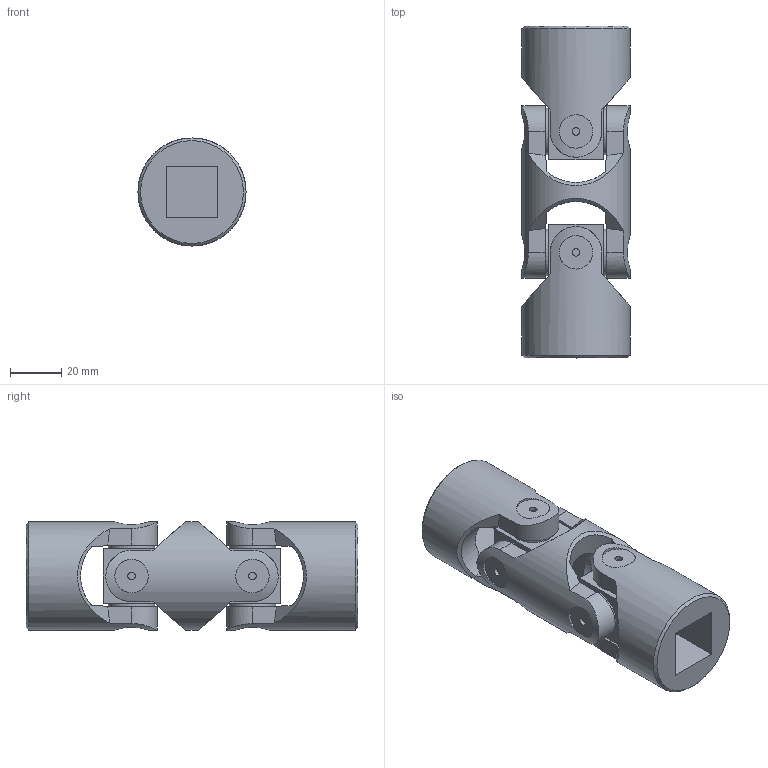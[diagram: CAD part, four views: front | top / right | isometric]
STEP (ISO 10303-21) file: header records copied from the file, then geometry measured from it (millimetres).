
FILE_DESCRIPTION(/* description */ (''),/* implementation_level */ '2;1');
FILE_NAME(/* name */ '\\SRV2016\Societa\Stefano\Disegni 3D\00Catalogo 3D\02Doppi GD-GBD\SG0D202Q.stp',/* time_stamp */ '2021-11-23T12:25:57+01:00',/* author */ ('acquisti'),/* organization */ (''),/* preprocessor_version */ 'ST-DEVELOPER v15.6',/* originating_system */ 'Autodesk Inventor 2015',/* authorisation */ '');
FILE_SCHEMA (('AUTOMOTIVE_DESIGN { 1 0 10303 214 3 1 1 }'));
Length unit declared in the file: millimetre
Products named in the file (4): 3G MOD; 3G SFE; 3G MOQ; Ø42_3GD-00_SG0D2000
Assembly tree (5 placements, depth 2):
  Ø42_3GD-00_SG0D2000
    3G MOD
    3G SFE  x2
    3G MOQ  x2
Bounding box: 42 x 129 x 42 mm (x, y, z)
Volume: 113587.7 mm3; surface area: 35137.1 mm2
Topology: 5 solids, 5 shells, 179 faces, 435 edges, 286 vertices
Faces by surface type: plane 78, cylinder 69, cone 28, torus 4
Full cylindrical faces by diameter (mm): 3 x8, 18 x8, 22 x2, 42 x3
Entity records: 4108 total; most frequent: CARTESIAN_POINT 1411, ORIENTED_EDGE 548, DIRECTION 510, EDGE_CURVE 274, AXIS2_PLACEMENT_3D 223, VERTEX_POINT 192, EDGE_LOOP 158, FACE_OUTER_BOUND 121
